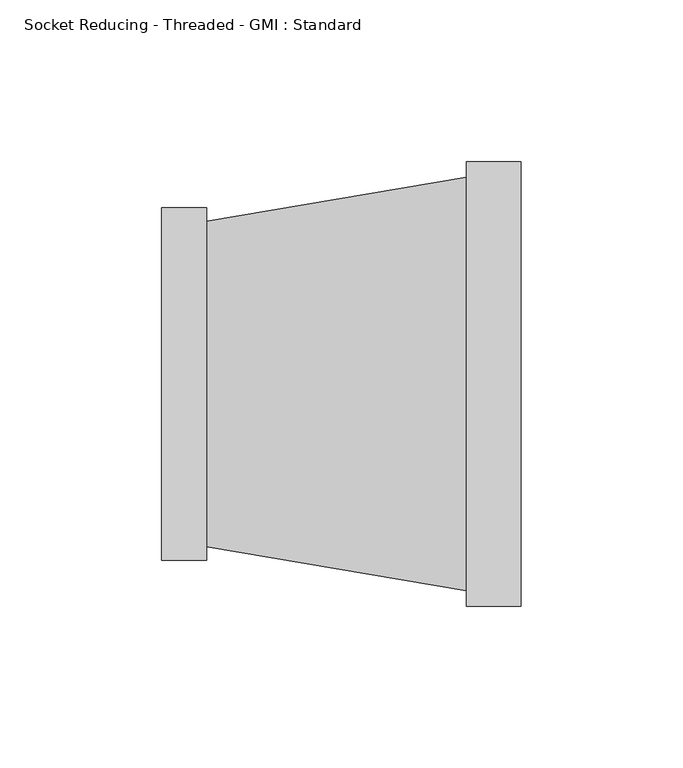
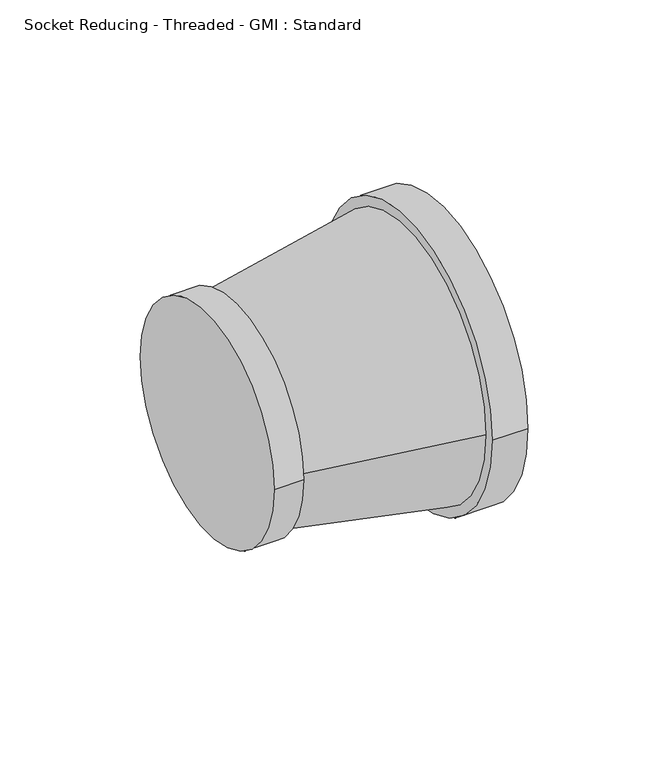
"""IFC4 building model written with IfcOpenShell, lengths in millimetres: pipe fitting geometry, Socket Reducing - Threaded - GMI : Standard."""

from ifc_helpers import new_model, si_unit, point, frame, origin, origin_2d, place, context, project, spatial, polyline, circle_curve, trimmed, segment, composite_curve, outline, extrude, source, transform, mapped, element, save
from ifc_brep_helpers import plane_surface, revolved_surface, advanced_brep


def socket_reducing_threaded_gmi_standard_a598bb7c(model_context):
    return source(origin(), model_context, "Body", "SolidModel", [
        extrude(outline(composite_curve([segment(trimmed(circle_curve(origin_2d(), 68.6), [point((68.6, 0.0))], [point((-68.6, 0.0))], False, "CARTESIAN"), True, "CONTINUOUS"), segment(trimmed(circle_curve(origin_2d(), 68.6), [point((-68.6, 0.0))], [point((68.6, 0.0))], False, "CARTESIAN"), True, "CONTINUOUS")], self_intersect=False)), frame((94.2, 0.0, 0.0), z_axis=(1.0, 0.0, 0.0), x_axis=(0.0, 1.0, 0.0)), (0.0, 0.0, 1.0), 16.8),
        advanced_brep(
        [(94.2, 63.93, 0.0), (94.2, -63.93, 0.0), (13.9, 50.32, 0.0), (13.9, -50.32, 0.0)],
        [
            (0, 1, circle_curve(frame((94.2, 0.0, 0.0), z_axis=(1.0, 0.0, 0.0), x_axis=(0.0, -1.0, 0.0)), 63.93)),
            (1, 0, circle_curve(frame((94.2, 0.0, 0.0), z_axis=(1.0, 0.0, 0.0), x_axis=(0.0, 1.0, 0.0)), 63.93)),
            (2, 3, circle_curve(frame((13.9, 0.0, 0.0), z_axis=(-1.0, 0.0, 0.0), x_axis=(0.0, 1.0, 0.0)), 50.32)),
            (3, 2, circle_curve(frame((13.9, 0.0, 0.0), z_axis=(-1.0, 0.0, 0.0), x_axis=(0.0, -1.0, 0.0)), 50.32)),
            (2, 0),
            (1, 3),
        ],
        [
            plane_surface(frame((94.2, 0.0, 0.0), z_axis=(1.0, 0.0, 0.0), x_axis=(0.0, 0.0, -1.0))),
            plane_surface(frame((13.9, 0.0, 0.0), z_axis=(-1.0, 0.0, 0.0), x_axis=(0.0, 0.0, -1.0))),
            revolved_surface(polyline([(13.899999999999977, 50.320000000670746, 0.0), (94.19999999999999, 63.93, 0.0)]), (-282.9916973, 0.0, 0.0), (1.0, 0.0, 0.0)),
            revolved_surface(polyline([(13.899999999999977, -50.320000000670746, 0.0), (94.19999999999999, -63.93, 0.0)]), (-282.9916973, 0.0, 0.0), (1.0, 0.0, 0.0)),
        ],
        [
            (0, [[1, 2]]),
            (1, [[3, 4]]),
            (2, [[5, -2, 6, -3]]),
            (3, [[-6, -1, -5, -4]]),
        ],
    ),
        extrude(outline(composite_curve([segment(trimmed(circle_curve(origin_2d(), 54.4), [point((54.4, 0.0))], [point((-54.4, 0.0))], False, "CARTESIAN"), True, "CONTINUOUS"), segment(trimmed(circle_curve(origin_2d(), 54.4), [point((-54.4, 0.0))], [point((54.4, 0.0))], False, "CARTESIAN"), True, "CONTINUOUS")], self_intersect=False)), frame((0.0, 0.0, 0.0), z_axis=(1.0, 0.0, 0.0), x_axis=(0.0, 1.0, 0.0)), (0.0, 0.0, 1.0), 13.9),
    ])


if __name__ == "__main__":
    model = new_model("IFC4")
    model_context = context("Model", 3, world=origin())
    ifc_project = project(units=[si_unit("LENGTHUNIT", "METRE", prefix="MILLI")], contexts=[model_context])
    site = spatial("IfcSite", under=ifc_project)
    building = spatial("IfcBuilding", under=site)
    placement = place(None, origin())
    socket_reducing_threaded_gmi_standard_shape = socket_reducing_threaded_gmi_standard_a598bb7c(model_context)
    element("IfcPipeFitting", 1, ObjectType="Socket Reducing - Threaded - GMI : Standard", at=placement, inside=building, context=model_context, shape_type="MappedRepresentation", body=[
        mapped(socket_reducing_threaded_gmi_standard_shape, transform((0.0, 0.0, 0.0), x_axis=(1.0, 0.0, 0.0), y_axis=(0.0, 1.0, 0.0), z_axis=(0.0, 0.0, 1.0))),
    ])
    save(model, "model.ifc")
